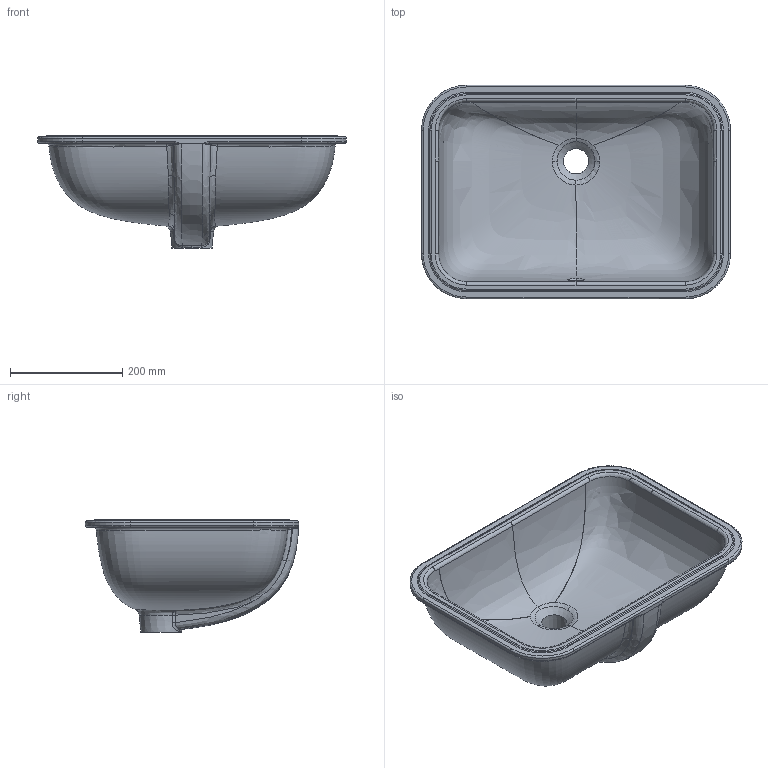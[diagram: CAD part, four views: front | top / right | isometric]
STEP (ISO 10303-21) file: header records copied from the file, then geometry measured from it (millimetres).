
FILE_DESCRIPTION (( 'STEP AP203' ), '1' );
FILE_NAME ('UDLT05538T00.STEP', '2024-08-26T08:34:52', ( '' ), ( '' ), 'SwSTEP 2.0', 'SolidWorks 2023', '' );
FILE_SCHEMA (( 'CONFIG_CONTROL_DESIGN' ));
Products named in the file (1): UDLT05538T00
Bounding box: 549.78 x 379.78 x 200 mm (x, y, z)
Volume: 4182734.4 mm3; surface area: 690889.8 mm2
Topology: 1 solids, 1 shells, 113 faces, 278 edges, 163 vertices
Faces by surface type: bspline 83, cylinder 18, plane 9, cone 3
Full cylindrical faces by diameter (mm): 24 x1
Entity records: 86828 total; most frequent: CARTESIAN_POINT 84875, ORIENTED_EDGE 538, EDGE_CURVE 269, B_SPLINE_CURVE_WITH_KNOTS 234, VERTEX_POINT 163, EDGE_LOOP 120, FACE_OUTER_BOUND 114, ADVANCED_FACE 113
